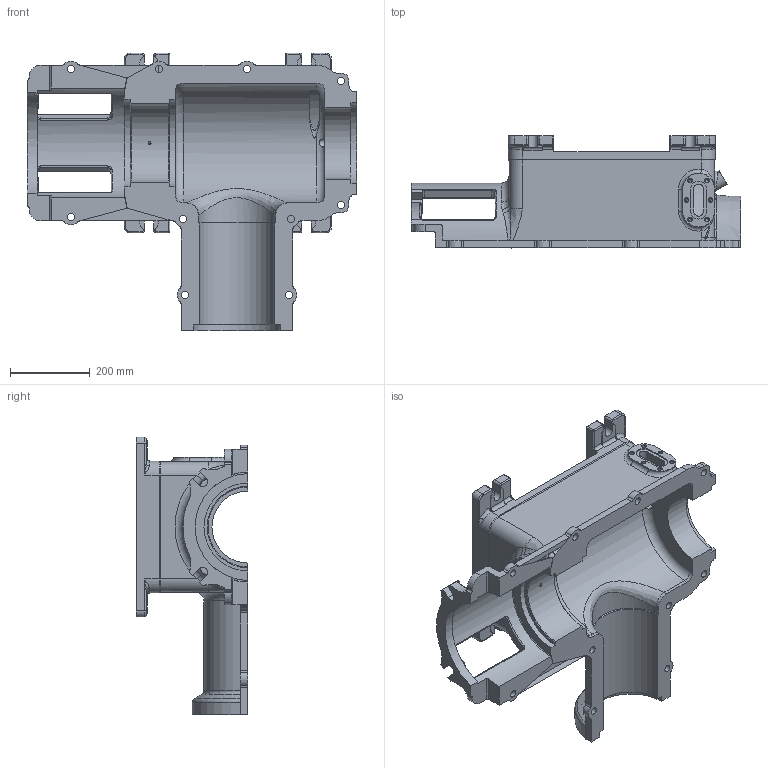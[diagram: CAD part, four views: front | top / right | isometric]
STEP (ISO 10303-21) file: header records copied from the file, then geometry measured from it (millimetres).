
FILE_DESCRIPTION(('STEP AP203'), '1');
FILE_NAME('Êîðïóñ ðåäóêòîðà óãëîâîãî ïðàâûé_ 2.02422.02.00.01', '', ('UNSPECIFIED'), ('UNSPECIFIED'), 'C3D Converter', 'C3D Toolkit', '');
FILE_SCHEMA(('CONFIG_CONTROL_DESIGN'));
Length unit declared in the file: millimetre
Products named in the file (1): 2.02422.02.00.01
Bounding box: 825 x 280 x 695 mm (x, y, z)
Surface area: 2110831.8 mm2 (no closed solid volume)
Topology: 0 solids, 1 shells, 622 faces, 1685 edges, 1037 vertices
Faces by surface type: cylinder 272, plane 175, bspline 69, torus 63, cone 31, sphere 8, extrusion 4
Full cylindrical faces by diameter (mm): 6 x1, 8.376 x6, 10.106 x2, 15.294 x2, 18 x10, 20 x1, 30 x1, 34 x1, 40 x1
Entity records: 45121 total; most frequent: CARTESIAN_POINT 25082, ORIENTED_EDGE 3212, DIRECTION 3051, EDGE_CURVE 1609, AXIS2_PLACEMENT_3D 1173, VERTEX_POINT 1026, VECTOR 705, LINE 701
